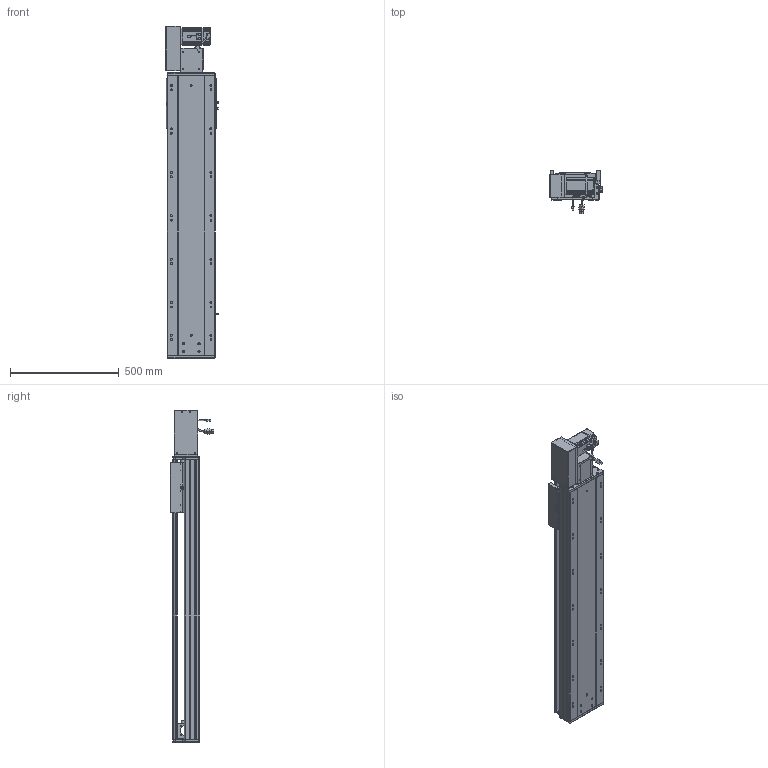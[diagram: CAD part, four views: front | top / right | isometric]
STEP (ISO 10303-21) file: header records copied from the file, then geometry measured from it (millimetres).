
FILE_DESCRIPTION (( 'STEP AP203' ), '1' );
FILE_NAME ('RY220-T-300-LK.SLDASM_950.step', '2022-07-25T08:13:49', ( '' ), ( '' ), 'SwSTEP 2.0', 'SolidWorks 2016', '' );
FILE_SCHEMA (( 'CONFIG_CONTROL_DESIGN' ));
Length unit declared in the file: millimetre
Products named in the file (14): RY220圉猾敕々湍臏賑輸; RY220翋肮祭謫釱; 怢湛750W_ECMA-CX0807ES; 滅袉蝶18-15; RY220-T菁釱-300_950; RY220-同步轮副支撑座6304×2; RY220-T-300-奻裔啣_950; RY220翋肮祭謫裔啣; RY220-T-湍謫欶(鍼踢); 覜茼ん672; 110A-T-肮祭謫釱傷裔; RY220-T-蛌殏萇儂假蚾啣(750W); RY220-T-300-LK.SLDASM_950; RY220-俋离672覜茼んえ
Assembly tree (18 placements, depth 2):
  RY220-T-300-LK.SLDASM_950
    RY220-T菁釱-300_950
    RY220翋肮祭謫釱
    覜茼ん672  x3
    RY220圉猾敕々湍臏賑輸
    RY220-T-300-奻裔啣_950
    RY220-俋离672覜茼んえ
    滅袉蝶18-15  x3
    RY220翋肮祭謫裔啣  x2
    110A-T-肮祭謫釱傷裔
    怢湛750W_ECMA-CX0807ES
    RY220-T-湍謫欶(鍼踢)
    RY220-T-蛌殏萇儂假蚾啣(750W)
    RY220-同步轮副支撑座6304×2
Bounding box: 239.7 x 198.77 x 1529 mm (x, y, z)
Volume: 11936843.8 mm3; surface area: 3474841.1 mm2
Topology: 19 solids, 19 shells, 2616 faces, 7215 edges, 4580 vertices
Faces by surface type: cylinder 1220, plane 1069, cone 245, bspline 56, sphere 16, torus 10
Entity records: 86979 total; most frequent: CARTESIAN_POINT 24819, ORIENTED_EDGE 12922, DIRECTION 12196, EDGE_CURVE 6461, AXIS2_PLACEMENT_3D 4306, VERTEX_POINT 4204, LINE 3584, VECTOR 3584
